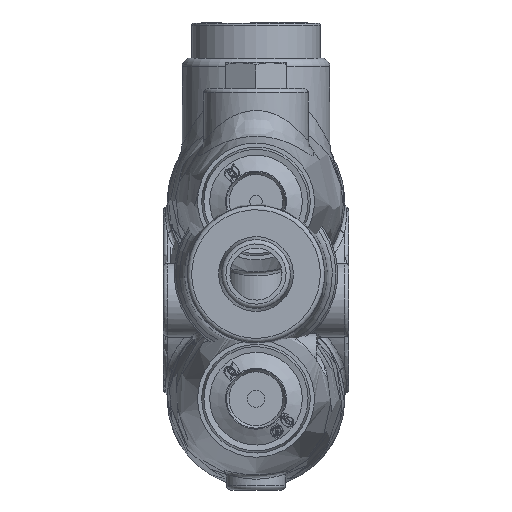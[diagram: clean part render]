
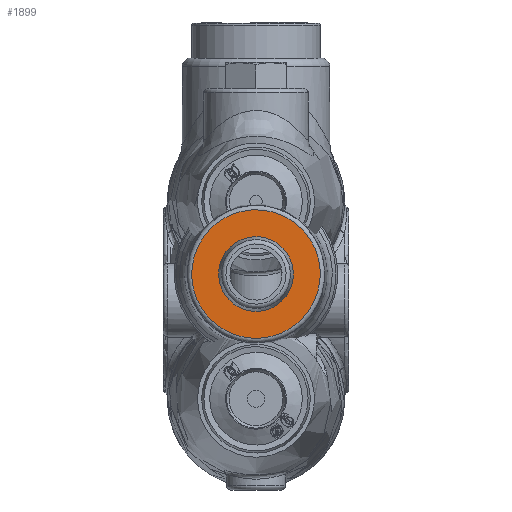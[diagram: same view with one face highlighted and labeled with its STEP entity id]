
A CAD part, left-side view. The second image highlights one B-rep face of the part: STEP entity #1899.
In plain terms, the highlighted planar face has unit normal (-1, 0, 0) as drawn and (1, 0, 0) by its records, which use the part's own axes.
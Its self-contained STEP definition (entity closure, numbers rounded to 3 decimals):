
#1899 = ADVANCED_FACE( '', ( #4136, #4137 ), #4138, .F. );
#4136 = FACE_OUTER_BOUND( '', #12407, .T. );
#4137 = FACE_BOUND( '', #12408, .T. );
#4138 = PLANE( '', #12409 );
#12407 = EDGE_LOOP( '', ( #19809 ) );
#12408 = EDGE_LOOP( '', ( #19810 ) );
#12409 = AXIS2_PLACEMENT_3D( '', #19811, #19812, #19813 );
#19809 = ORIENTED_EDGE( '', *, *, #23020, .F. );
#19810 = ORIENTED_EDGE( '', *, *, #23516, .T. );
#19811 = CARTESIAN_POINT( '', ( -0.61, 0., 4. ) );
#19812 = DIRECTION( '', ( -1., 0., 0. ) );
#19813 = DIRECTION( '', ( 0., 0., 1. ) );
#23020 = EDGE_CURVE( '', #26215, #26215, #26216, .T. );
#23516 = EDGE_CURVE( '', #26856, #26856, #26857, .T. );
#26215 = VERTEX_POINT( '', #39205 );
#26216 = CIRCLE( '', #39206, 7.4 );
#26856 = VERTEX_POINT( '', #42527 );
#26857 = CIRCLE( '', #42528, 4. );
#39205 = CARTESIAN_POINT( '', ( -0.61, 0., 7.4 ) );
#39206 = AXIS2_PLACEMENT_3D( '', #45283, #45284, #45285 );
#42527 = CARTESIAN_POINT( '', ( -0.61, 0., 4. ) );
#42528 = AXIS2_PLACEMENT_3D( '', #45714, #45715, #45716 );
#45283 = CARTESIAN_POINT( '', ( -0.61, 0., 0. ) );
#45284 = DIRECTION( '', ( -1., 0., 0. ) );
#45285 = DIRECTION( '', ( 0., 0., 1. ) );
#45714 = CARTESIAN_POINT( '', ( -0.61, 0., 0. ) );
#45715 = DIRECTION( '', ( -1., 0., 0. ) );
#45716 = DIRECTION( '', ( 0., 0., 1. ) );
